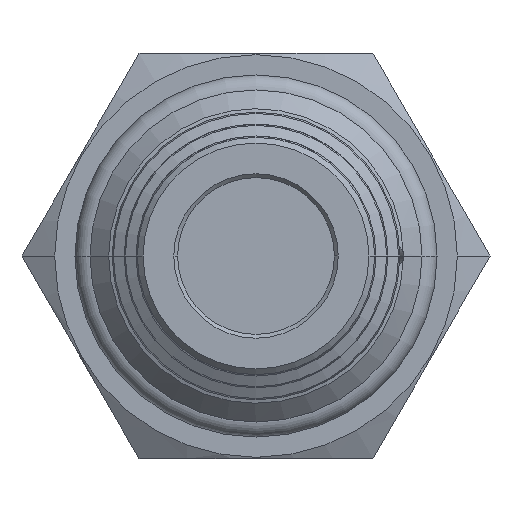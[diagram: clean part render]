
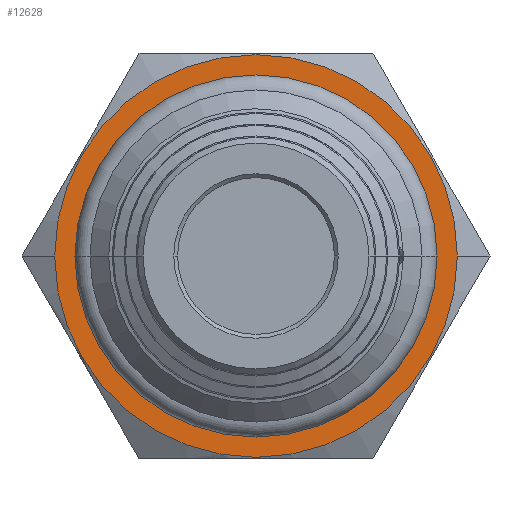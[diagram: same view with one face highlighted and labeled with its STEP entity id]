
A CAD part, front view. The second image highlights one B-rep face of the part: STEP entity #12628.
In plain terms, the highlighted planar face has unit normal (0, -1, 0).
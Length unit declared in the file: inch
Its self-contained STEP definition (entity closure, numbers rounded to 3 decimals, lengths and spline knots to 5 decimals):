
#5679=CARTESIAN_POINT('',(0.,0.,0.));
#5680=DIRECTION('',(0.,-1.,0.));
#5681=DIRECTION('',(1.,0.,0.));
#5682=AXIS2_PLACEMENT_3D('',#5679,#5680,#5681);
#5687=CARTESIAN_POINT('',(0.,0.,0.));
#5688=DIRECTION('',(0.,1.,0.));
#5689=DIRECTION('',(1.,0.,0.));
#5690=AXIS2_PLACEMENT_3D('',#5687,#5688,#5689);
#5695=CARTESIAN_POINT('',(0.,0.,0.));
#5696=DIRECTION('',(0.,-1.,0.));
#5697=DIRECTION('',(1.,0.,0.));
#5698=AXIS2_PLACEMENT_3D('',#5695,#5696,#5697);
#5703=CARTESIAN_POINT('',(0.,0.,0.));
#5704=DIRECTION('',(0.,-1.,0.));
#5705=DIRECTION('',(-1.,0.,0.));
#5706=AXIS2_PLACEMENT_3D('',#5703,#5704,#5705);
#10002=CARTESIAN_POINT('',(0.5275,0.,0.));
#10004=VERTEX_POINT('',#10002);
#10030=CARTESIAN_POINT('',(-0.5275,0.,0.));
#10032=VERTEX_POINT('',#10030);
#10319=CARTESIAN_POINT('',(0.43733,0.,0.));
#10320=CARTESIAN_POINT('',(-0.43733,0.,0.));
#10321=VERTEX_POINT('',#10319);
#10322=VERTEX_POINT('',#10320);
#12612=CARTESIAN_POINT('',(0.,0.,0.));
#12613=DIRECTION('',(0.,1.,0.));
#12614=DIRECTION('',(1.,0.,0.));
#12615=AXIS2_PLACEMENT_3D('',#12612,#12613,#12614);
#12616=PLANE('',#12615);
#12618=ORIENTED_EDGE('',*,*,#12617,.F.);
#12620=ORIENTED_EDGE('',*,*,#12619,.T.);
#12621=EDGE_LOOP('',(#12618,#12620));
#12622=FACE_OUTER_BOUND('',#12621,.F.);
#12624=ORIENTED_EDGE('',*,*,#12623,.T.);
#12625=ORIENTED_EDGE('',*,*,#12602,.T.);
#12626=EDGE_LOOP('',(#12624,#12625));
#12627=FACE_BOUND('',#12626,.F.);
#5683=CIRCLE('',#5682,0.5275);
#5691=CIRCLE('',#5690,0.5275);
#5699=CIRCLE('',#5698,0.43733);
#5707=CIRCLE('',#5706,0.43733);
#12602=EDGE_CURVE('',#10322,#10321,#5707,.T.);
#12617=EDGE_CURVE('',#10004,#10032,#5683,.T.);
#12619=EDGE_CURVE('',#10004,#10032,#5691,.T.);
#12623=EDGE_CURVE('',#10321,#10322,#5699,.T.);
#12628=ADVANCED_FACE('',(#12622,#12627),#12616,.F.);
